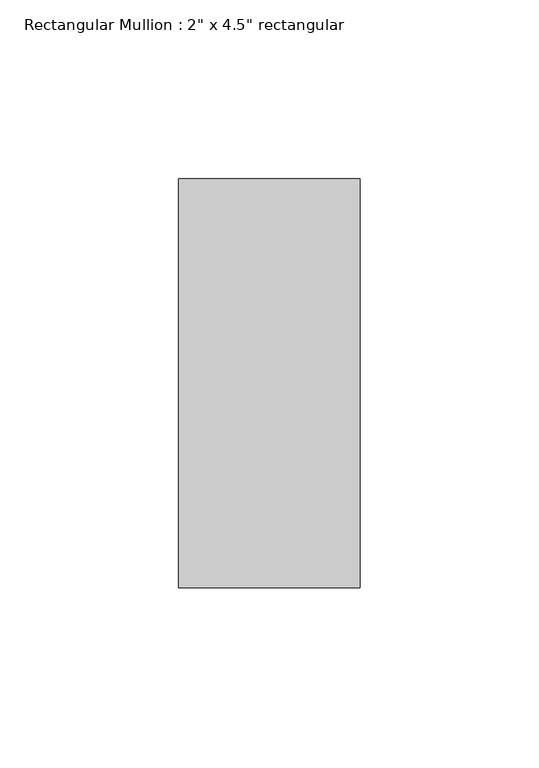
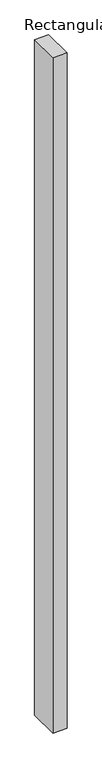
"""IFC4 building model written with IfcOpenShell, lengths in millimetres: member geometry."""

from ifc_helpers import new_model, si_unit, frame, origin, place, context, project, spatial, polyline, outline, extrude, source, transform, mapped, element, save


def member_e44af9ab(model_context):
    return source(origin(), model_context, "Body", "SweptSolid", [
        extrude(outline(polyline([(25.4, 57.15), (25.4, -57.15), (-25.4, -57.15), (-25.4, 57.15), (25.4, 57.15)])), frame((0.0, 0.0, -2590.8), z_axis=(0.0, 0.0, 1.0), x_axis=(1.0, 0.0, 0.0)), (0.0, 0.0, 1.0), 2590.8),
    ])


if __name__ == "__main__":
    model = new_model("IFC4")
    model_context = context("Model", 3, world=origin())
    ifc_project = project(units=[si_unit("LENGTHUNIT", "METRE", prefix="MILLI")], contexts=[model_context])
    site = spatial("IfcSite", under=ifc_project)
    building = spatial("IfcBuilding", under=site)
    placement = place(None, origin())
    member_shape = member_e44af9ab(model_context)
    element("IfcMember", 1, ObjectType="Rectangular Mullion : 2\" x 4.5\" rectangular", at=placement, inside=building, context=model_context, shape_type="MappedRepresentation", body=[
        mapped(member_shape, transform((0.0, 0.0, 0.0), x_axis=(1.0, 0.0, 0.0), y_axis=(0.0, 1.0, 0.0), z_axis=(0.0, 0.0, 1.0))),
    ])
    save(model, "model.ifc")
